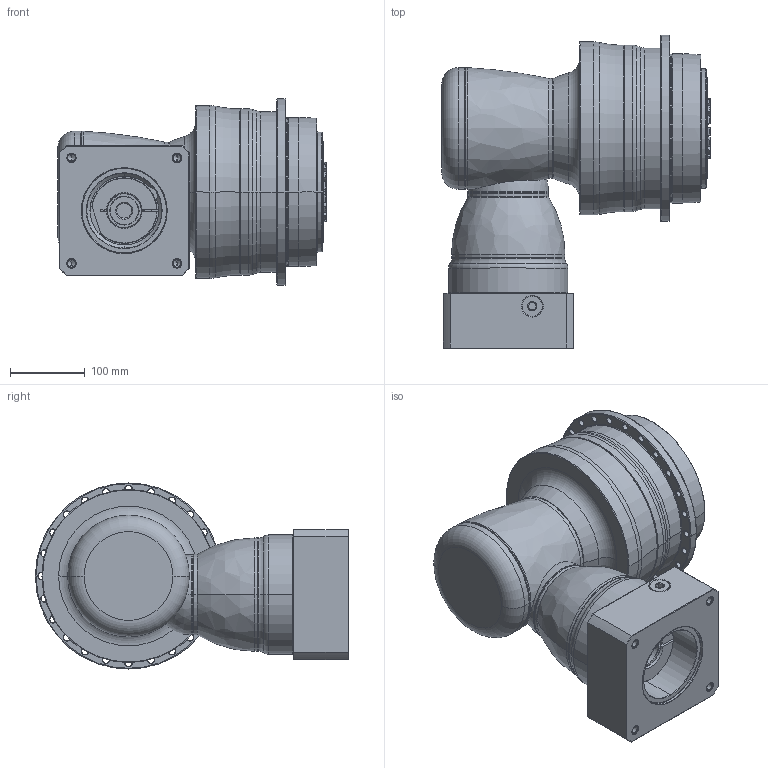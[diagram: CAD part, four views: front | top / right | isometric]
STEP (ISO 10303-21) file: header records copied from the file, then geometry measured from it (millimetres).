
FILE_DESCRIPTION((''),'2;1');
FILE_NAME('APCK200_3ST_38-P0409910201_ASM','2018-05-14T',('d01226'),(''),'PRO/ENGINEER BY PARAMETRIC TECHNOLOGY CORPORATION, 2008410','PRO/ENGINEER BY PARAMETRIC TECHNOLOGY CORPORATION, 2008410','');
FILE_SCHEMA(('CONFIG_CONTROL_DESIGN'));
Length unit declared in the file: millimetre
Products named in the file (13): P1008500002; P1832600001; P0278601003; P0359660103; P1211600001; P1315500001; P1007501001; P1318501401; P0409910201; P0503900012; P0912554001; 21711422019; APCK200_3ST_38-P0409910201_ASM
Assembly tree (12 placements, depth 2):
  APCK200_3ST_38-P0409910201_ASM
    P1008500002
    P1832600001
    P0278601003
    P0359660103
    P1211600001
    P1315500001
    P1007501001
    P1318501401
    P0409910201
    P0503900012
    P0912554001
    21711422019
Bounding box: 359.6 x 419.75 x 249.5 mm (x, y, z)
Volume: 13834388.3 mm3; surface area: 1002268.9 mm2
Topology: 13 solids, 23 shells, 702 faces, 1646 edges, 1000 vertices
Faces by surface type: cone 222, cylinder 218, plane 128, torus 111, bspline 21, sphere 2
Entity records: 25805 total; most frequent: CARTESIAN_POINT 9166, DIRECTION 3746, ORIENTED_EDGE 3222, AXIS2_PLACEMENT_3D 1636, EDGE_CURVE 1632, VERTEX_POINT 1000, CIRCLE 920, EDGE_LOOP 810
